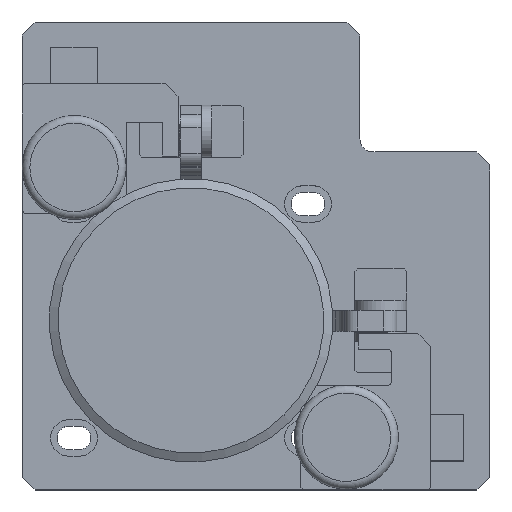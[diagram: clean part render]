
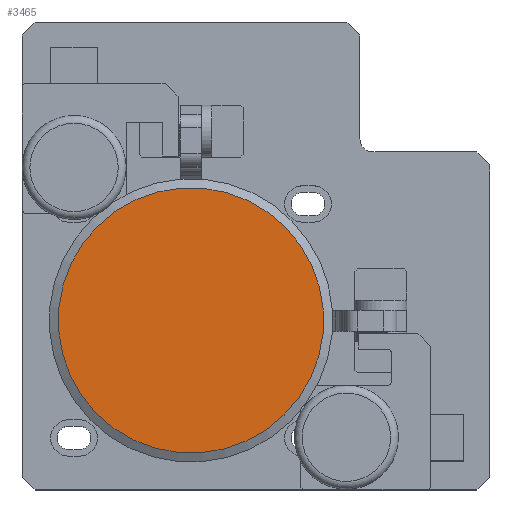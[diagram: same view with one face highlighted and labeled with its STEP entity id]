
A CAD part, top view. The second image highlights one B-rep face of the part: STEP entity #3465.
In plain terms, the highlighted planar face has unit normal (0, 0, 1).
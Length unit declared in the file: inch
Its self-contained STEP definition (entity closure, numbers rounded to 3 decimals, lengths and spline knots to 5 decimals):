
#1091=FACE_OUTER_BOUND('',#1308,.T.);
#1308=EDGE_LOOP('',(#2689));
#1521=CIRCLE('',#3739,2.00929);
#1747=VERTEX_POINT('',#5330);
#2114=EDGE_CURVE('',#1747,#1747,#1521,.T.);
#2689=ORIENTED_EDGE('',*,*,#2114,.T.);
#3314=PLANE('',#3740);
#3465=ADVANCED_FACE('',(#1091),#3314,.T.);
#3739=AXIS2_PLACEMENT_3D('',#5331,#4335,#4336);
#3740=AXIS2_PLACEMENT_3D('',#5332,#4337,#4338);
#4335=DIRECTION('center_axis',(0.,0.,
1.));
#4336=DIRECTION('ref_axis',(-0.078,0.997,0.));
#4337=DIRECTION('center_axis',(0.,0.,
1.));
#4338=DIRECTION('ref_axis',(-0.078,0.997,0.));
#5330=CARTESIAN_POINT('',(-3.79443,2.15711,5.07874));
#5331=CARTESIAN_POINT('Origin',(-3.63675,0.15402,5.07874));
#5332=CARTESIAN_POINT('Origin',(-3.63675,0.15402,5.07874));
